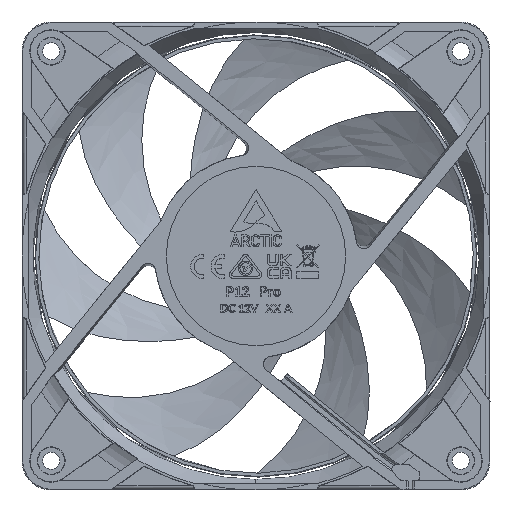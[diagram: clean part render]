
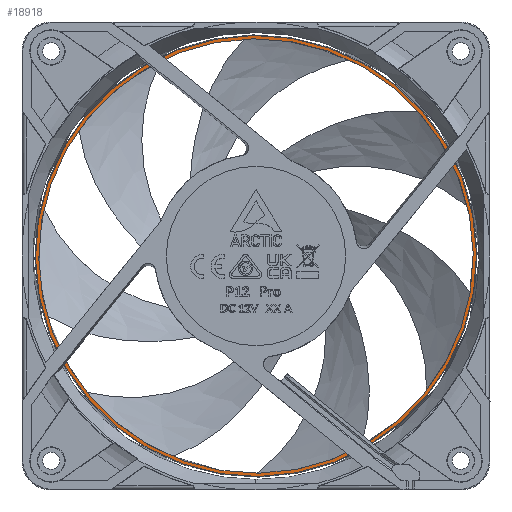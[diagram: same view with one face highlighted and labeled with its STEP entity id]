
A CAD part, front view. The second image highlights one B-rep face of the part: STEP entity #18918.
In plain terms, the highlighted planar face has unit normal (0, -1, 0).
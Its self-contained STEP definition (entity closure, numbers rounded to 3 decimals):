
#5655 = DIRECTION ( 'NONE',  ( 0., 1., 0. ) ) ;
#6313 = ORIENTED_EDGE ( 'NONE', *, *, #18865, .T. ) ;
#11215 = EDGE_CURVE ( 'NONE', #60401, #18680, #68828, .T. ) ;
#11830 = PLANE ( 'NONE',  #54834 ) ;
#13237 = ORIENTED_EDGE ( 'NONE', *, *, #11215, .F. ) ;
#18309 = VERTEX_POINT ( 'NONE', #71643 ) ;
#18680 = VERTEX_POINT ( 'NONE', #37443 ) ;
#18865 = EDGE_CURVE ( 'NONE', #76933, #18309, #31201, .T. ) ;
#18918 = ADVANCED_FACE ( 'NONE', ( #80914, #49676 ), #11830, .F. ) ;
#21550 = CARTESIAN_POINT ( 'NONE',  ( 0., -8.5, 56.552 ) ) ;
#21980 = AXIS2_PLACEMENT_3D ( 'NONE', #23269, #61920, #37243 ) ;
#23269 = CARTESIAN_POINT ( 'NONE',  ( 0., -8.5, 0. ) ) ;
#24266 = DIRECTION ( 'NONE',  ( 0., 1., 0. ) ) ;
#25077 = DIRECTION ( 'NONE',  ( 0., 0., 1. ) ) ;
#25166 = DIRECTION ( 'NONE',  ( 0., 1., 0. ) ) ;
#27278 = AXIS2_PLACEMENT_3D ( 'NONE', #37738, #5655, #69016 ) ;
#30084 = ORIENTED_EDGE ( 'NONE', *, *, #35746, .T. ) ;
#31201 = CIRCLE ( 'NONE', #27278, 55.7 ) ;
#34974 = ORIENTED_EDGE ( 'NONE', *, *, #75543, .F. ) ;
#35746 = EDGE_CURVE ( 'NONE', #18309, #76933, #56734, .T. ) ;
#37243 = DIRECTION ( 'NONE',  ( 0., 0., 1. ) ) ;
#37443 = CARTESIAN_POINT ( 'NONE',  ( 0., -8.5, -56.552 ) ) ;
#37738 = CARTESIAN_POINT ( 'NONE',  ( 0., -8.5, 0. ) ) ;
#38152 = CARTESIAN_POINT ( 'NONE',  ( 0., -8.5, 0. ) ) ;
#45559 = CIRCLE ( 'NONE', #21980, 56.552 ) ;
#45747 = CARTESIAN_POINT ( 'NONE',  ( 0., -8.5, -55.7 ) ) ;
#48348 = CARTESIAN_POINT ( 'NONE',  ( 0., -8.5, 0. ) ) ;
#49676 = FACE_OUTER_BOUND ( 'NONE', #54711, .T. ) ;
#50869 = EDGE_LOOP ( 'NONE', ( #30084, #6313 ) ) ;
#54711 = EDGE_LOOP ( 'NONE', ( #13237, #34974 ) ) ;
#54748 = CARTESIAN_POINT ( 'NONE',  ( 0., -8.5, 0. ) ) ;
#54834 = AXIS2_PLACEMENT_3D ( 'NONE', #38152, #63248, #75975 ) ;
#56734 = CIRCLE ( 'NONE', #67237, 55.7 ) ;
#60401 = VERTEX_POINT ( 'NONE', #21550 ) ;
#61920 = DIRECTION ( 'NONE',  ( 0., 1., 0. ) ) ;
#63248 = DIRECTION ( 'NONE',  ( 0., 1., 0. ) ) ;
#67237 = AXIS2_PLACEMENT_3D ( 'NONE', #48348, #25166, #73422 ) ;
#68828 = CIRCLE ( 'NONE', #76552, 56.552 ) ;
#69016 = DIRECTION ( 'NONE',  ( 1., 0., 0. ) ) ;
#71643 = CARTESIAN_POINT ( 'NONE',  ( 0., -8.5, 55.7 ) ) ;
#73422 = DIRECTION ( 'NONE',  ( 1., 0., 0. ) ) ;
#75543 = EDGE_CURVE ( 'NONE', #18680, #60401, #45559, .T. ) ;
#75975 = DIRECTION ( 'NONE',  ( 0., 0., 1. ) ) ;
#76552 = AXIS2_PLACEMENT_3D ( 'NONE', #54748, #24266, #25077 ) ;
#76933 = VERTEX_POINT ( 'NONE', #45747 ) ;
#80914 = FACE_BOUND ( 'NONE', #50869, .T. ) ;
